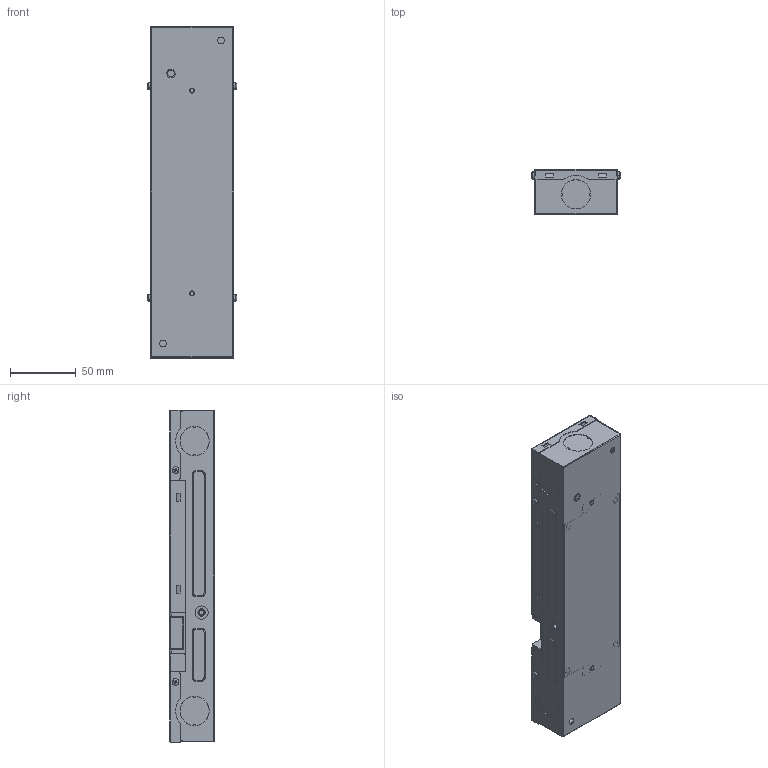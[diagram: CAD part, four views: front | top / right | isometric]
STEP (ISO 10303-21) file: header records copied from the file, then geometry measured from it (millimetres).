
FILE_DESCRIPTION (( 'STEP AP203' ), '1' );
FILE_NAME ('Box Assy-CVDP -KO.STEP', '2020-07-23T03:01:53', ( '' ), ( '' ), 'SwSTEP 2.0', 'SolidWorks 2017', '' );
FILE_SCHEMA (( 'CONFIG_CONTROL_DESIGN' ));
Length unit declared in the file: millimetre
Products named in the file (19): 515-20002420   Cover-XWV96-2448Z-UNV-I  AL  T0.8mm; 511-00006160 Base- CVDP-KO; 531-00000450    1145-0303; M3x6; PCBA-XWV96-2448Z-UNV-I; Bushing-圓環; Flush Stud_PME M3x6_PEM FH-M3-6 X--N; PHONE JACK; Box Assy-XWV96-2448Z-UNV-I  AL T0.8mm; BSO M2.5-5.0-外徑4.2mm; 515-20002410  Base-XWV96-2448Z-UNV-I AL  T0.8mm; 傷赽-CJTCONN; Box Assy-CVDP -KO; 511-00006170  Protect Cover-CVDP-KO; M3 NUT; 515-20002410  Base-XWV96-2448Z-UNV-I  AL  T0.8mm; BSO M3.5x6; 550-40012880-02-1
Assembly tree (34 placements, depth 4):
  Box Assy-CVDP -KO
    511-00006160 Base- CVDP-KO
      511-00006160 Base- CVDP-KO
      Flush Stud_PME M3x6_PEM FH-M3-6 X--N  x2
      BSO M3.5x6
    Box Assy-XWV96-2448Z-UNV-I  AL T0.8mm
      515-20002410  Base-XWV96-2448Z-UNV-I  AL  T0.8mm
        515-20002410  Base-XWV96-2448Z-UNV-I AL  T0.8mm
        BSO M2.5-5.0-外徑4.2mm  x4
      M3x6  x6
      531-00000450    1145-0303
      Bushing-圓環  x2
      515-20002420   Cover-XWV96-2448Z-UNV-I  AL  T0.8mm
      PCBA-XWV96-2448Z-UNV-I
        PHONE JACK
        傷赽-CJTCONN
        550-40012880-02-1
    M3 NUT  x2
    511-00006170  Protect Cover-CVDP-KO  x2
    M3x6  x4
Bounding box: 68.23 x 34 x 252 mm (x, y, z)
Volume: 70120.1 mm3; surface area: 180961.8 mm2
Topology: 39 solids, 39 shells, 2209 faces, 5723 edges, 3632 vertices
Faces by surface type: plane 1236, cylinder 651, bspline 164, cone 120, torus 38
Entity records: 58051 total; most frequent: CARTESIAN_POINT 16396, ORIENTED_EDGE 8486, DIRECTION 7663, EDGE_CURVE 4243, VECTOR 2827, LINE 2827, VERTEX_POINT 2681, AXIS2_PLACEMENT_3D 2418
